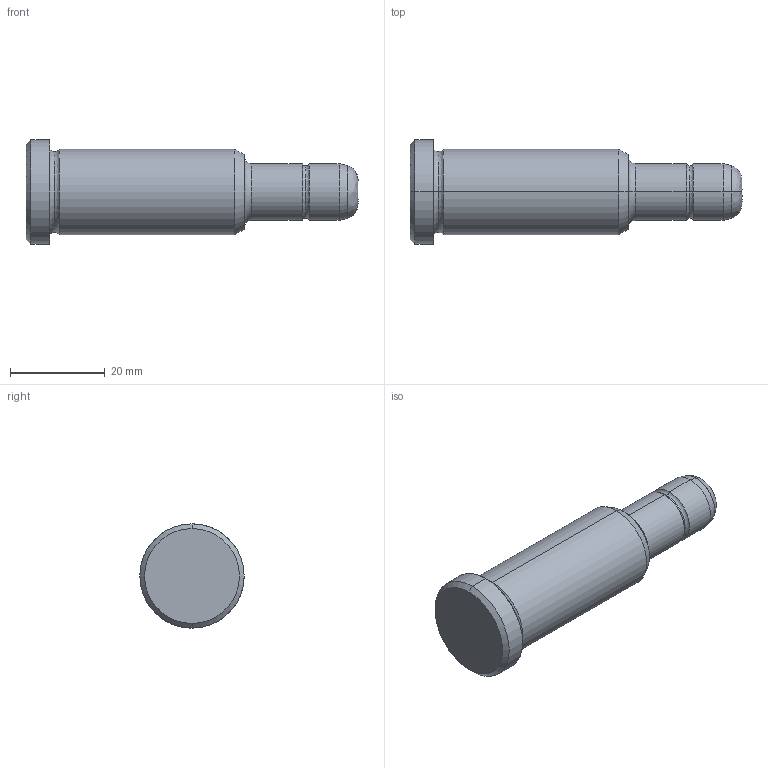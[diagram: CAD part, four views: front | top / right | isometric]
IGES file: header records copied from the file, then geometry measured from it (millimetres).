
Start section: START RECORD GO HERE.
Global section: file name: 351-12X46X70.igs; native system: DASSAULT SYSTEMES CATIA V5 R20 - www.3ds.com; preprocessor: CATIA Version 5 Release 20 ; author: Utente; organization: NB04-ASUS; date: 20210817.152103; units: millimetre
Bounding box: 70 x 22 x 22 mm (x, y, z)
Surface area: 4169 mm2 (no closed solid volume)
Topology: 0 solids, 0 shells, 30 faces, 172 edges, 172 vertices
Faces by surface type: revolution 24, plane 4, bspline 2
